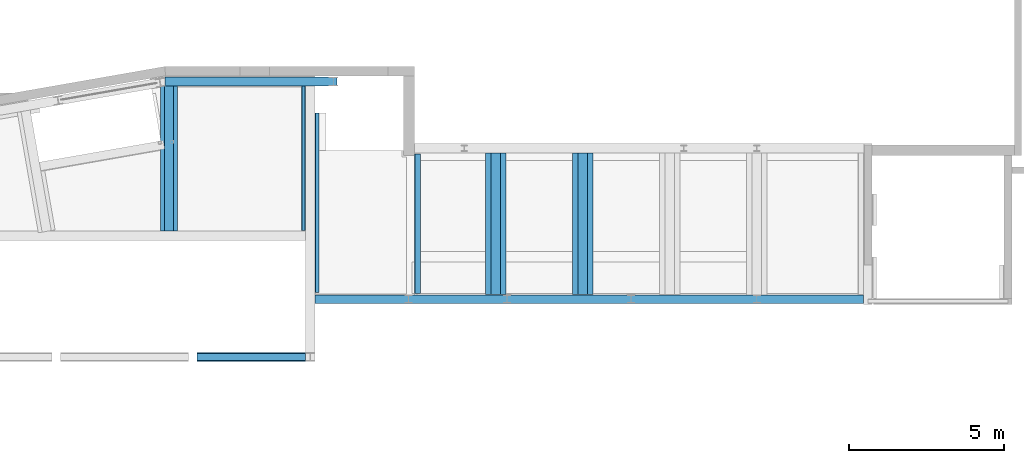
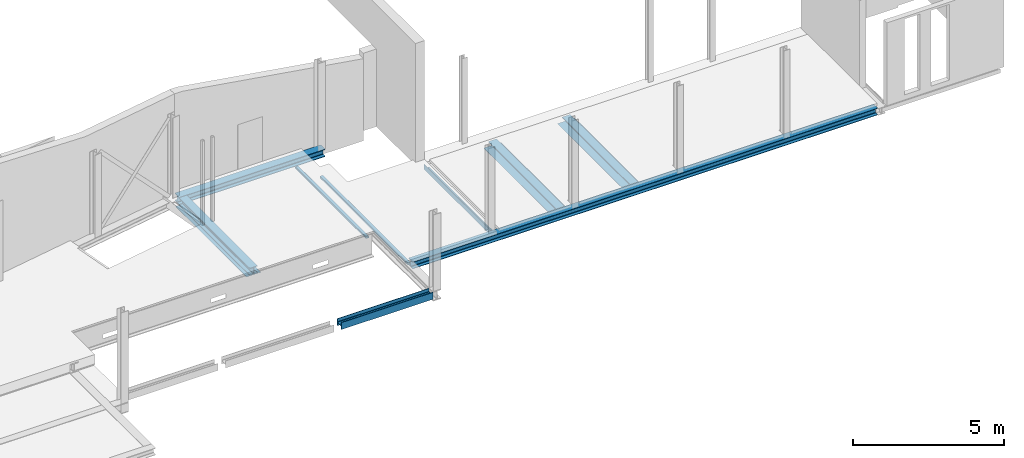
# One storey, part 20 of 38: 9 beams.
"""IFC2X3 building model written with IfcOpenShell, lengths in millimetres."""

from ifc_helpers import new_model, entity, si_unit, converted_unit, derived_unit, direction, frame, frame_2d, origin, place, context, subcontext, project, spatial, polyline, circle_curve, parameter, trimmed, segment, composite_curve, rectangle, i_section, outline, extrude, source, transform, mapped, material, material_list, type_object, type_shapes, element, save


model = new_model("IFC2X3")

# Units and contexts
model_context = context("Model", 3, precision=0.01, world=origin(), true_north=direction((6.12303176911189e-17, 1.0)))
body_context = subcontext(model_context, "Body", "Model", "MODEL_VIEW")
ifc_project = project(units=[si_unit("LENGTHUNIT", "METRE", prefix="MILLI"), si_unit("AREAUNIT", "SQUARE_METRE", prefix="MILLI"), si_unit("VOLUMEUNIT", "CUBIC_METRE"), converted_unit("PLANEANGLEUNIT", "DEGREE", entity("IfcRatioMeasure", 0.0174532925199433), si_unit("PLANEANGLEUNIT", "RADIAN"), dimensions=[0, 0, 0, 0, 0, 0, 0]), si_unit("MASSUNIT", "GRAM", prefix="KILO"), derived_unit("MASSDENSITYUNIT", [(si_unit("MASSUNIT", "GRAM", prefix="KILO"), 1), (si_unit("LENGTHUNIT", "METRE"), -3)]), derived_unit("MOMENTOFINERTIAUNIT", [(si_unit("LENGTHUNIT", "METRE"), 4)]), si_unit("TIMEUNIT", "SECOND"), si_unit("FREQUENCYUNIT", "HERTZ"), si_unit("THERMODYNAMICTEMPERATUREUNIT", "DEGREE_CELSIUS"), derived_unit("THERMALTRANSMITTANCEUNIT", [(si_unit("MASSUNIT", "GRAM", prefix="KILO"), 1), (si_unit("THERMODYNAMICTEMPERATUREUNIT", "KELVIN"), -1), (si_unit("TIMEUNIT", "SECOND"), -3)]), derived_unit("VOLUMETRICFLOWRATEUNIT", [(si_unit("LENGTHUNIT", "METRE"), 3), (si_unit("TIMEUNIT", "SECOND"), -1)]), si_unit("ELECTRICCURRENTUNIT", "AMPERE"), si_unit("ELECTRICVOLTAGEUNIT", "VOLT"), si_unit("POWERUNIT", "WATT"), si_unit("FORCEUNIT", "NEWTON", prefix="KILO"), si_unit("ILLUMINANCEUNIT", "LUX"), si_unit("LUMINOUSFLUXUNIT", "LUMEN"), si_unit("LUMINOUSINTENSITYUNIT", "CANDELA"), derived_unit("USERDEFINED", [(si_unit("MASSUNIT", "GRAM", prefix="KILO"), -1), (si_unit("LENGTHUNIT", "METRE"), -2), (si_unit("TIMEUNIT", "SECOND"), 3), (si_unit("LUMINOUSFLUXUNIT", "LUMEN"), 1)]), derived_unit("LINEARVELOCITYUNIT", [(si_unit("LENGTHUNIT", "METRE"), 1), (si_unit("TIMEUNIT", "SECOND"), -1)]), si_unit("PRESSUREUNIT", "PASCAL"), derived_unit("USERDEFINED", [(si_unit("LENGTHUNIT", "METRE"), -2), (si_unit("MASSUNIT", "GRAM", prefix="KILO"), 1), (si_unit("TIMEUNIT", "SECOND"), -2)]), derived_unit("LINEARFORCEUNIT", [(si_unit("MASSUNIT", "GRAM", prefix="KILO"), 1), (si_unit("LENGTHUNIT", "METRE"), 1), (si_unit("TIMEUNIT", "SECOND"), -2), (si_unit("LENGTHUNIT", "METRE"), -1)]), derived_unit("PLANARFORCEUNIT", [(si_unit("MASSUNIT", "GRAM", prefix="KILO"), 1), (si_unit("LENGTHUNIT", "METRE"), 1), (si_unit("TIMEUNIT", "SECOND"), -2), (si_unit("LENGTHUNIT", "METRE"), -2)])], contexts=[model_context])

# Site, building, storey
site_placement = place(None, origin())
site = spatial("IfcSite", under=ifc_project, at=site_placement, Name="Theater aan de Parade", CompositionType="ELEMENT")
building_placement = place(site_placement, origin())
building = spatial("IfcBuilding", under=site, at=building_placement, Name="Theater aan de Parade", CompositionType="ELEMENT")
storey_placement = place(building_placement, frame((0.0, 0.0, 12480.0)))
storey = spatial("IfcBuildingStorey", under=building, at=storey_placement, Name="03 derde verdieping", CompositionType="ELEMENT", Elevation=12480.0)

# Beams
ifc_material_1 = material(Name="00_PBT_MAT_staal_S355")
beam_type_1 = type_object("IfcBeamType", Name="28_PBT_SF_staal_H-profiel (void):S355_HE300B", PredefinedType="NOTDEFINED")
beam_1_placement = place(storey_placement, frame((59652.0520755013, 21855.0, 0.0)))
element("IfcBeam", 1, at=beam_1_placement, inside=storey, type_object=beam_type_1, material=ifc_material_1, Name="28_PBT_SF_staal_H-profiel (void):S355_HE300B", ObjectType="28_PBT_SF_staal_H-profiel (void):S355_HE300B", context=body_context, shape_type="SweptSolid", body=[
    extrude(outline(composite_curve([segment(polyline([(131.0, -150.0), (150.0, -150.0)]), True, "CONTINUOUS"), segment(polyline([(150.0, -150.0), (150.0, 150.0)]), True, "CONTINUOUS"), segment(polyline([(150.0, 150.0), (131.0, 150.0)]), True, "CONTINUOUS"), segment(polyline([(131.0, 150.0), (131.0, 32.5000000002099)]), True, "CONTINUOUS"), segment(trimmed(circle_curve(frame_2d((104.0, 32.5000000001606), x_axis=(1.0, 0.0)), 26.9999999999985), [parameter(269.999999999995)], [parameter(0.0)], True, "PARAMETER"), False, "CONTINUOUS"), segment(polyline([(104.0, 5.50000000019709), (-104.0, 5.49999999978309)]), True, "CONTINUOUS"), segment(trimmed(circle_curve(frame_2d((-104.0, 32.4999999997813), x_axis=(0.0, -1.0)), 26.9999999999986), [parameter(269.999999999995)], [parameter(0.0)], True, "PARAMETER"), False, "CONTINUOUS"), segment(polyline([(-131.0, 32.4999999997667), (-131.0, 150.0)]), True, "CONTINUOUS"), segment(polyline([(-131.0, 150.0), (-150.0, 150.0)]), True, "CONTINUOUS"), segment(polyline([(-150.0, 150.0), (-150.0, -150.0)]), True, "CONTINUOUS"), segment(polyline([(-150.0, -150.0), (-131.0, -150.0)]), True, "CONTINUOUS"), segment(polyline([(-131.0, -150.0), (-131.0, -32.5000000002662)]), True, "CONTINUOUS"), segment(trimmed(circle_curve(frame_2d((-104.0, -32.5000000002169), x_axis=(-1.0, 0.0)), 26.9999999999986), [parameter(269.999999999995)], [parameter(0.0)], True, "PARAMETER"), False, "CONTINUOUS"), segment(polyline([(-104.0, -5.50000000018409), (104.0, -5.4999999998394)]), True, "CONTINUOUS"), segment(trimmed(circle_curve(frame_2d((104.0, -32.4999999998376), x_axis=(0.0, 1.0)), 26.9999999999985), [parameter(269.999999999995)], [parameter(0.0)], True, "PARAMETER"), False, "CONTINUOUS"), segment(polyline([(131.0, -32.4999999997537), (131.0, -150.0)]), True, "CONTINUOUS")], self_intersect=False)), frame((0.0, 0.0, -110.0), z_axis=(1.0, 0.0, 0.0), x_axis=(0.0, 0.0, -1.0)), (0.0, 0.0, 1.0), 5560.0),
])
beam_type_2 = type_object("IfcBeamType", Name="28_PBT_SF_staal_H-profiel (void):S355_HE280B", PredefinedType="NOTDEFINED")
beam_2_placement = place(storey_placement, frame((82220.0084217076, 14822.0, 0.0), z_axis=(0.0, 0.0, 1.0), x_axis=(-1.0, 0.0, 0.0)))
element("IfcBeam", 2, at=beam_2_placement, inside=storey, type_object=beam_type_2, material=ifc_material_1, Name="28_PBT_SF_staal_H-profiel (void):S355_HE280B", ObjectType="28_PBT_SF_staal_H-profiel (void):S355_HE280B", context=body_context, shape_type="SweptSolid", body=[
    extrude(outline(composite_curve([segment(polyline([(122.0, -140.0), (140.0, -140.0)]), True, "CONTINUOUS"), segment(polyline([(140.0, -140.0), (140.0, 140.0)]), True, "CONTINUOUS"), segment(polyline([(140.0, 140.0), (122.0, 140.0)]), True, "CONTINUOUS"), segment(polyline([(122.0, 140.0), (122.0, 29.2500000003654)]), True, "CONTINUOUS"), segment(trimmed(circle_curve(frame_2d((98.0, 29.2500000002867), x_axis=(1.0, 0.0)), 24.0000000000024), [parameter(270.00000000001)], [parameter(0.0)], True, "PARAMETER"), False, "CONTINUOUS"), segment(polyline([(98.0, 5.25000000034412), (-98.0, 5.24999999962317)]), True, "CONTINUOUS"), segment(trimmed(circle_curve(frame_2d((-98.0, 29.2499999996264), x_axis=(0.0, -1.0)), 24.0000000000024), [parameter(270.00000000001)], [parameter(0.0)], True, "PARAMETER"), False, "CONTINUOUS"), segment(polyline([(-122.0, 29.249999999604), (-122.0, 140.0)]), True, "CONTINUOUS"), segment(polyline([(-122.0, 140.0), (-140.0, 140.0)]), True, "CONTINUOUS"), segment(polyline([(-140.0, 140.0), (-140.0, -140.0)]), True, "CONTINUOUS"), segment(polyline([(-140.0, -140.0), (-122.0, -140.0)]), True, "CONTINUOUS"), segment(polyline([(-122.0, -140.0), (-122.0, -29.2500000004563)]), True, "CONTINUOUS"), segment(trimmed(circle_curve(frame_2d((-98.0, -29.2500000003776), x_axis=(-1.0, 0.0)), 24.000000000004), [parameter(270.000000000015)], [parameter(0.0)], True, "PARAMETER"), False, "CONTINUOUS"), segment(polyline([(-98.0, -5.25000000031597), (98.0, -5.2499999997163)]), True, "CONTINUOUS"), segment(trimmed(circle_curve(frame_2d((98.0, -29.2499999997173), x_axis=(0.0, 1.0)), 24.0000000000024), [parameter(270.00000000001)], [parameter(0.0)], True, "PARAMETER"), False, "CONTINUOUS"), segment(polyline([(122.0, -29.2499999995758), (122.0, -140.0)]), True, "CONTINUOUS")], self_intersect=False)), frame((0.0, 0.0, -140.0), z_axis=(1.0, 0.0, 0.0), x_axis=(0.0, 0.0, -1.0)), (0.0, 0.0, 1.0), 17725.4563461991),
])
beam_type_3 = type_object("IfcBeamType", Name="28_PBT_SF_staal_L-profiel:S355_L200x200x20", PredefinedType="NOTDEFINED")
beam_3_placement = place(storey_placement, frame((67763.0561009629, 19510.0, 0.0), z_axis=(0.0, 0.0, 1.0), x_axis=(0.0, -1.0, 0.0)))
element("IfcBeam", 3, at=beam_3_placement, inside=storey, type_object=beam_type_3, material=ifc_material_1, Name="28_PBT_SF_staal_L-profiel:S355_L200x200x20", ObjectType="28_PBT_SF_staal_L-profiel:S355_L200x200x20", context=body_context, shape_type="SweptSolid", body=[
    extrude(outline(composite_curve([segment(polyline([(-124.444444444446, -75.5555555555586), (75.5555555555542, -75.5555555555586)]), True, "CONTINUOUS"), segment(polyline([(75.5555555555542, -75.5555555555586), (75.5555555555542, 124.444444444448)]), True, "CONTINUOUS"), segment(polyline([(75.5555555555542, 124.444444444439), (64.5555555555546, 124.444444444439)]), True, "CONTINUOUS"), segment(trimmed(circle_curve(frame_2d((64.5555555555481, 115.444444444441), x_axis=(0.0, 1.0)), 8.99999999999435), [parameter(0.0)], [parameter(90.0000000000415)], True, "PARAMETER"), True, "CONTINUOUS"), segment(polyline([(55.5555555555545, 115.444444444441), (55.5555555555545, -37.5555555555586)]), True, "CONTINUOUS"), segment(trimmed(circle_curve(frame_2d((37.5555555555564, -37.5555555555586), x_axis=(1.0, 0.0)), 17.9999999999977), [parameter(269.999999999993)], [parameter(0.0)], True, "PARAMETER"), False, "CONTINUOUS"), segment(polyline([(37.5555555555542, -55.5555555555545), (-115.444444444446, -55.5555555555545)]), True, "CONTINUOUS"), segment(trimmed(circle_curve(frame_2d((-115.444444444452, -64.5555555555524), x_axis=(0.0, 1.0)), 8.99999999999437), [parameter(0.0)], [parameter(90.0000000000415)], True, "PARAMETER"), True, "CONTINUOUS"), segment(polyline([(-124.444444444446, -64.5555555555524), (-124.444444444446, -75.5555555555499)]), True, "CONTINUOUS")], self_intersect=False)), frame((0.0, 18.7555555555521, -229.444444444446), z_axis=(1.0, 0.0, 0.0), x_axis=(0.0, 0.0, -1.0)), (0.0, 0.0, 1.0), 4508.00000000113),
])
ifc_material_2 = material(Name="00_PBT_MAT_Lucht")
ifc_material_list_1 = material_list([ifc_material_1, ifc_material_2])
beam_type_4 = type_object("IfcBeamType", Name="28_PBT_SF_staal_H-profiel_met_oplegstrippen (void):S355_HE300M + oplegstrippen d=12", PredefinedType="BEAM", material=ifc_material_list_1)
shared_shape_1 = source(origin(), body_context, "Body", "SweptSolid", [
    extrude(i_section(OverallWidth=309.999999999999, OverallDepth=340.000000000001, WebThickness=20.9999999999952, FlangeThickness=39.000000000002, FilletRadius=27.0000000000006, at=frame_2d((1.73230318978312e-11, 0.0), x_axis=(1.0, 0.0))), frame((73152.5575351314, 14974.699999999, 12230.0), z_axis=(0.0, 1.0, 0.0), x_axis=(-1.0, 0.0, 0.0)), (0.0, 0.0, 1.0), 4575.30000000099),
    extrude(rectangle(XDim=11.9999999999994, YDim=320.000000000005, at=frame_2d((-4.33431068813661e-12, 0.0), x_axis=(0.0, 1.0))), frame((73323.0575351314, 14974.699999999, 12189.0), z_axis=(0.0, 1.0, 0.0), x_axis=(-1.0, 0.0, 0.0)), (0.0, 0.0, 1.0), 4575.30000000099),
    extrude(rectangle(XDim=11.9999999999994, YDim=320.000000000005, at=frame_2d((4.33431068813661e-12, -1.0831335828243e-12), x_axis=(0.0, 1.0))), frame((72982.0575351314, 14974.699999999, 12189.0), z_axis=(0.0, 1.0, 0.0), x_axis=(-1.0, 0.0, 0.0)), (0.0, 0.0, 1.0), 4575.30000000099),
])
type_shapes(beam_type_4, [shared_shape_1])
beam_4_placement = place(storey_placement, frame((0.0, 0.0, -12480.0)))
element("IfcBeam", 4, at=beam_4_placement, inside=storey, type_object=beam_type_4, material=ifc_material_1, Name="28_PBT_SF_staal_H-profiel_met_oplegstrippen (void):S355_HE300M + oplegstrippen d=12", ObjectType="28_PBT_SF_staal_H-profiel_met_oplegstrippen (void):S355_HE300M + oplegstrippen d=12", context=body_context, shape_type="MappedRepresentation", body=[
    mapped(shared_shape_1, transform((0.0, 0.0, 0.0), scale=1.0)),
])
ifc_material_list_2 = material_list([ifc_material_1, ifc_material_2])
beam_type_5 = type_object("IfcBeamType", Name="28_PBT_SF_staal_H-profiel_met_oplegstrippen (void):S355_HE300M + oplegstrippen d=12", PredefinedType="BEAM", material=ifc_material_list_2)
shared_shape_2 = source(origin(), body_context, "Body", "SweptSolid", [
    extrude(i_section(OverallWidth=309.999999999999, OverallDepth=340.000000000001, WebThickness=20.9999999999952, FlangeThickness=39.000000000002, FilletRadius=27.0000000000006, at=frame_2d((2.59916532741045e-11, 0.0), x_axis=(1.0, 0.0))), frame((70341.9068180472, 14974.699999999, 12230.0), z_axis=(0.0, 1.0, 0.0), x_axis=(-1.0, 0.0, 0.0)), (0.0, 0.0, 1.0), 4575.30000000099),
    extrude(rectangle(XDim=11.9999999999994, YDim=320.000000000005, at=frame_2d((4.33431068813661e-12, 0.0), x_axis=(0.0, 1.0))), frame((70512.4068180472, 14974.699999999, 12189.0), z_axis=(0.0, 1.0, 0.0), x_axis=(-1.0, 0.0, 0.0)), (0.0, 0.0, 1.0), 4575.30000000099),
    extrude(rectangle(XDim=11.9999999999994, YDim=320.000000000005, at=frame_2d((-4.33431068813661e-12, -1.0831335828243e-12), x_axis=(0.0, 1.0))), frame((70171.4068180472, 14974.699999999, 12189.0), z_axis=(0.0, 1.0, 0.0), x_axis=(-1.0, 0.0, 0.0)), (0.0, 0.0, 1.0), 4575.30000000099),
])
type_shapes(beam_type_5, [shared_shape_2])
beam_5_placement = place(storey_placement, frame((0.0, 0.0, -12480.0)))
element("IfcBeam", 5, at=beam_5_placement, inside=storey, type_object=beam_type_5, material=ifc_material_1, Name="28_PBT_SF_staal_H-profiel_met_oplegstrippen (void):S355_HE300M + oplegstrippen d=12", ObjectType="28_PBT_SF_staal_H-profiel_met_oplegstrippen (void):S355_HE300M + oplegstrippen d=12", context=body_context, shape_type="MappedRepresentation", body=[
    mapped(shared_shape_2, transform((0.0, 0.0, 0.0), scale=1.0)),
])
ifc_material_3 = material(Name="00_PBT_MAT_staal_S235")
beam_type_6 = type_object("IfcBeamType", Name="28_PBT_SF_staal_koker:S235_K80x120x6.3", PredefinedType="NOTDEFINED")
beam_6_placement = place(storey_placement, frame((64065.5520755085, 21705.0, 0.0), z_axis=(0.0, 0.0, 1.0), x_axis=(0.0, -1.0, 0.0)))
element("IfcBeam", 6, at=beam_6_placement, inside=storey, type_object=beam_type_6, material=ifc_material_3, Name="28_PBT_SF_staal_koker:S235_K80x120x6.3", ObjectType="28_PBT_SF_staal_koker:S235_K80x120x6.3", context=body_context, shape_type="SweptSolid", body=[
    extrude(outline(composite_curve([segment(polyline([(-30.5499999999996, -60.0), (30.5499999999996, -60.0)]), True, "CONTINUOUS"), segment(trimmed(circle_curve(frame_2d((30.5499999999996, -50.5499999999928), x_axis=(0.0, 1.0)), 9.45), [parameter(180.0)], [parameter(270.0)], True, "PARAMETER"), True, "CONTINUOUS"), segment(polyline([(40.0, -50.5500000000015), (40.0, 50.5500000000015)]), True, "CONTINUOUS"), segment(trimmed(circle_curve(frame_2d((30.5499999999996, 50.5500000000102), x_axis=(0.0, 1.0)), 9.45), [parameter(270.0)], [parameter(360.0)], True, "PARAMETER"), True, "CONTINUOUS"), segment(polyline([(30.5499999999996, 60.0), (-30.5499999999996, 60.0)]), True, "CONTINUOUS"), segment(trimmed(circle_curve(frame_2d((-30.5499999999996, 50.5500000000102), x_axis=(0.0, 1.0)), 9.45), [parameter(0.0)], [parameter(90.0000000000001)], True, "PARAMETER"), True, "CONTINUOUS"), segment(polyline([(-40.0, 50.5500000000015), (-40.0, -50.5500000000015)]), True, "CONTINUOUS"), segment(trimmed(circle_curve(frame_2d((-30.5499999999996, -50.5499999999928), x_axis=(0.0, 1.0)), 9.45), [parameter(90.0)], [parameter(180.0)], True, "PARAMETER"), True, "CONTINUOUS")], self_intersect=False), holes=[composite_curve([segment(polyline([(33.6999999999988, 47.3999999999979), (33.6999999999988, -47.3999999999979)]), True, "CONTINUOUS"), segment(trimmed(circle_curve(frame_2d((27.4000000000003, -47.3999999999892), x_axis=(0.0, 1.0)), 6.3), [parameter(180.0)], [parameter(270.0)], True, "PARAMETER"), False, "CONTINUOUS"), segment(polyline([(27.4000000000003, -53.6999999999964), (-27.4000000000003, -53.6999999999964)]), True, "CONTINUOUS"), segment(trimmed(circle_curve(frame_2d((-27.4000000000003, -47.3999999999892), x_axis=(0.0, 1.0)), 6.3), [parameter(90.0)], [parameter(180.0)], True, "PARAMETER"), False, "CONTINUOUS"), segment(polyline([(-33.700000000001, -47.3999999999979), (-33.700000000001, 47.3999999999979)]), True, "CONTINUOUS"), segment(trimmed(circle_curve(frame_2d((-27.4000000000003, 47.4000000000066), x_axis=(0.0, 1.0)), 6.3), [parameter(4.07110999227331e-13)], [parameter(90.0000000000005)], True, "PARAMETER"), False, "CONTINUOUS"), segment(polyline([(-27.4000000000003, 53.6999999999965), (27.4000000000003, 53.6999999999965)]), True, "CONTINUOUS"), segment(trimmed(circle_curve(frame_2d((27.4000000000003, 47.4000000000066), x_axis=(0.0, 1.0)), 6.3), [parameter(270.0)], [parameter(360.0)], True, "PARAMETER"), False, "CONTINUOUS")], self_intersect=False)]), frame((0.0, 60.0, -305.0), z_axis=(1.0, 0.0, 0.0), x_axis=(0.0, 0.0, 1.0)), (0.0, 0.0, 1.0), 4660.0),
])
beam_7_placement = place(storey_placement, frame((64623.5520755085, 20830.406742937, 0.0), z_axis=(0.0, 0.0, 1.0), x_axis=(0.0, -1.0, 0.0)))
element("IfcBeam", 7, at=beam_7_placement, inside=storey, type_object=beam_type_6, material=ifc_material_3, Name="28_PBT_SF_staal_koker:S235_K80x120x6.3", ObjectType="28_PBT_SF_staal_koker:S235_K80x120x6.3", context=body_context, shape_type="SweptSolid", body=[
    extrude(outline(composite_curve([segment(trimmed(circle_curve(frame_2d((-50.5500000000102, -30.5499999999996), x_axis=(1.0, 0.0)), 9.45), [parameter(180.0)], [parameter(270.0)], True, "PARAMETER"), True, "CONTINUOUS"), segment(polyline([(-50.5500000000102, -40.0), (50.5499999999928, -40.0)]), True, "CONTINUOUS"), segment(trimmed(circle_curve(frame_2d((50.5499999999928, -30.5499999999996), x_axis=(1.0, 0.0)), 9.45), [parameter(270.0)], [parameter(0.0)], True, "PARAMETER"), True, "CONTINUOUS"), segment(polyline([(60.0, -30.5499999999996), (60.0, 30.5499999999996)]), True, "CONTINUOUS"), segment(trimmed(circle_curve(frame_2d((50.5499999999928, 30.5499999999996), x_axis=(1.0, 0.0)), 9.45), [parameter(3.56222124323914e-13)], [parameter(90.0000000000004)], True, "PARAMETER"), True, "CONTINUOUS"), segment(polyline([(50.5499999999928, 40.0), (-50.5500000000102, 40.0)]), True, "CONTINUOUS"), segment(trimmed(circle_curve(frame_2d((-50.5500000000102, 30.5499999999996), x_axis=(1.0, 0.0)), 9.45), [parameter(90.0000000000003)], [parameter(180.0)], True, "PARAMETER"), True, "CONTINUOUS"), segment(polyline([(-60.0, 30.5499999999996), (-60.0, -30.5499999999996)]), True, "CONTINUOUS")], self_intersect=False), holes=[composite_curve([segment(trimmed(circle_curve(frame_2d((47.3999999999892, 27.4000000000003), x_axis=(1.0, 0.0)), 6.3), [parameter(5.08888749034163e-14)], [parameter(90.0000000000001)], True, "PARAMETER"), False, "CONTINUOUS"), segment(polyline([(53.6999999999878, 27.4000000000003), (53.6999999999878, -27.4000000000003)]), True, "CONTINUOUS"), segment(trimmed(circle_curve(frame_2d((47.3999999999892, -27.4000000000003), x_axis=(1.0, 0.0)), 6.3), [parameter(269.999999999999)], [parameter(360.0)], True, "PARAMETER"), False, "CONTINUOUS"), segment(polyline([(47.3999999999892, -33.700000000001), (-47.4000000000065, -33.700000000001)]), True, "CONTINUOUS"), segment(trimmed(circle_curve(frame_2d((-47.4000000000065, -27.4000000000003), x_axis=(1.0, 0.0)), 6.3), [parameter(180.0)], [parameter(270.0)], True, "PARAMETER"), False, "CONTINUOUS"), segment(polyline([(-53.7000000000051, -27.4000000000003), (-53.7000000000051, 27.4000000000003)]), True, "CONTINUOUS"), segment(trimmed(circle_curve(frame_2d((-47.4000000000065, 27.4000000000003), x_axis=(1.0, 0.0)), 6.3), [parameter(89.9999999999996)], [parameter(180.0)], True, "PARAMETER"), False, "CONTINUOUS"), segment(polyline([(-47.4000000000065, 33.6999999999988), (47.3999999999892, 33.6999999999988)]), True, "CONTINUOUS")], self_intersect=False)]), frame((0.0, -60.0, -305.0), z_axis=(1.0, 0.0, 0.0), x_axis=(0.0, 1.0, 0.0)), (0.0, 0.0, 1.0), 5790.40674293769),
])
beam_type_7 = type_object("IfcBeamType", Name="28_PBT_SF_staal_H-profiel (void):S355_HE280B_Z", PredefinedType="NOTDEFINED")
beam_8_placement = place(storey_placement, frame((60690.83241379, 13095.0, 0.0)))
element("IfcBeam", 8, at=beam_8_placement, inside=storey, type_object=beam_type_7, material=ifc_material_1, Name="28_PBT_SF_staal_H-profiel (void):S355_HE280B_Z", ObjectType="28_PBT_SF_staal_H-profiel (void):S355_HE280B_Z", context=body_context, shape_type="SweptSolid", body=[
    extrude(i_section(OverallWidth=279.999999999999, OverallDepth=280.000000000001, WebThickness=10.5000000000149, FlangeThickness=18.0000000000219, FilletRadius=24.0000000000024, at=frame_2d((0.0, 4.33431068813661e-12), x_axis=(1.0, 0.0))), frame((0.0, -140.0, -120.0), z_axis=(1.0, 0.0, 0.0), x_axis=(0.0, 0.0, -1.0)), (0.0, 0.0, 1.0), 3503.71966171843),
])
ifc_material_list_3 = material_list([ifc_material_1, ifc_material_2])
beam_type_8 = type_object("IfcBeamType", Name="28_PBT_SF_staal_H-profiel_met_onderplaat (void):S355_HE300B + onderplaat d=12", PredefinedType="BEAM", material=ifc_material_list_3)
shared_shape_3 = source(origin(), body_context, "Body", "SweptSolid", [
    extrude(i_section(OverallWidth=300.000000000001, OverallDepth=300.000000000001, WebThickness=10.9999999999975, FlangeThickness=18.9999999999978, FilletRadius=27.0000000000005, at=frame_2d((-8.65441052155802e-12, -2.17426077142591e-12), x_axis=(1.0, 0.0))), frame((59781.2414762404, 21705.0, 12365.0), z_axis=(0.0, -1.0, 0.0), x_axis=(-1.0, 0.0, 0.0)), (0.0, 0.0, 1.0), 4684.99742376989),
    extrude(rectangle(XDim=11.9999999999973, YDim=549.999999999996, at=frame_2d((-4.32009983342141e-12, 1.08268949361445e-12), x_axis=(0.0, 1.0))), frame((59781.2414762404, 21705.0, 12209.0), z_axis=(0.0, -1.0, 0.0), x_axis=(-1.0, 0.0, 0.0)), (0.0, 0.0, 1.0), 4684.99742376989),
])
type_shapes(beam_type_8, [shared_shape_3])
beam_9_placement = place(storey_placement, frame((0.0, 0.0, -12480.0)))
element("IfcBeam", 9, at=beam_9_placement, inside=storey, type_object=beam_type_8, material=ifc_material_1, Name="28_PBT_SF_staal_H-profiel_met_onderplaat (void):S355_HE300B + onderplaat d=12", ObjectType="28_PBT_SF_staal_H-profiel_met_onderplaat (void):S355_HE300B + onderplaat d=12", context=body_context, shape_type="MappedRepresentation", body=[
    mapped(shared_shape_3, transform((0.0, 0.0, 0.0), scale=1.0)),
])

save(model, "model.ifc")
